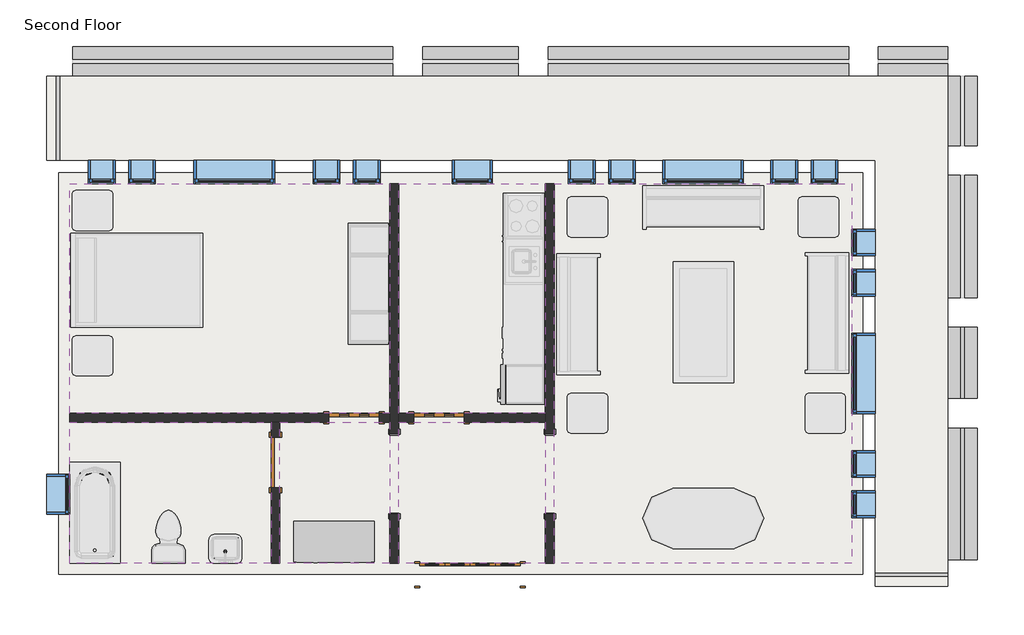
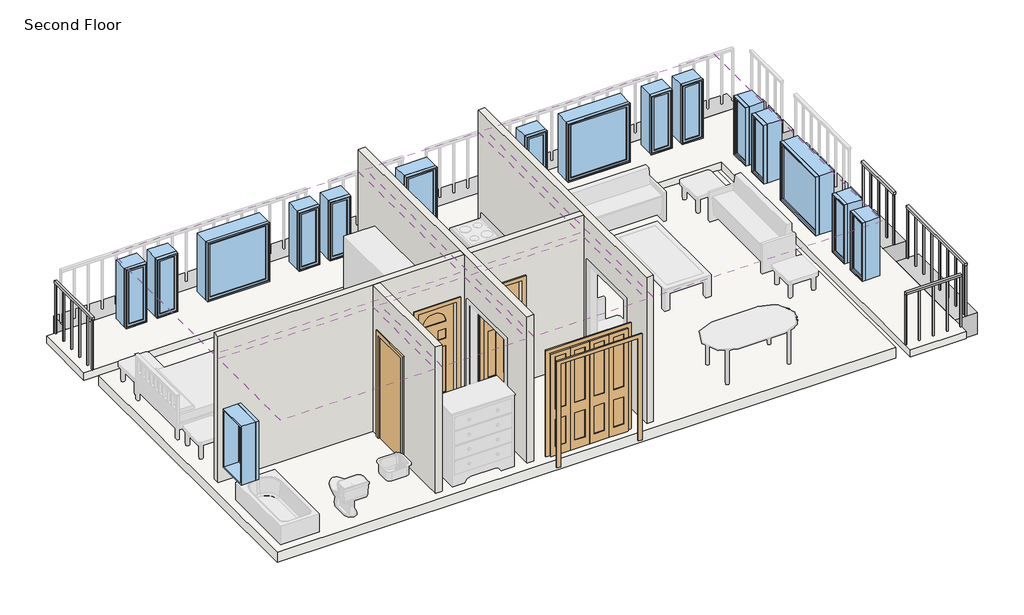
# One storey, part 1 of 2: 17 windows, 6 coverings, 4 doors, 4 railings, 4 walls, 2 beams, 2 slabs.
"""IFC4 building model written with IfcOpenShell, lengths in millimetres."""

from ifc_helpers import new_model, si_unit, frame, origin, place, context, project, spatial, polyline, outline, extrude, faceted_brep, transform, mapped, element, save
from components import m_bifold_4_panel_1525_x_2134mm_1ddae71f, m_single_decorative_2_0762_x_2134mm_0d0af7cb, m_single_decorative_2_0762_x_2134mm_2fe67c8e, m_single_flush_0762_x_2134mm_0d89e411, m_fixed_0406_x_1220mm_57fee329, m_fixed_0406_x_1220mm_85c28f40, m_fixed_0610_x_1220mm_2c28ef1d, m_fixed_1220_x_1220mm_e08ff7af

model = new_model("IFC4")

# Units and contexts
model_context = context("Model", 3, world=origin())
ifc_project = project(units=[si_unit("LENGTHUNIT", "METRE", prefix="MILLI")], contexts=[model_context])

# Site, building, storey
site = spatial("IfcSite", under=ifc_project)
building = spatial("IfcBuilding", under=site)
storey = spatial("IfcBuildingStorey", under=building, Name="Second Floor", Elevation=3048.0)

# Beams
placement = place(None, origin())
element("IfcBeam", 1, ObjectType="M_Concrete-Rectangular Beam : 450 x 450", at=placement, inside=storey, context=model_context, shape_type="SweptSolid", body=[
    extrude(outline(polyline([(-1643.3416203, 4481.1188386), (-1643.3416203, 4031.1188386), (-2693.3416203, 4031.1188386), (-2693.3416203, 4481.1188386), (-1643.3416203, 4481.1188386)])), frame((0.0, 0.0, 2598.0), z_axis=(0.0, 0.0, 1.0), x_axis=(1.0, 0.0, 0.0)), (0.0, 0.0, 1.0), 450.0),
    extrude(outline(polyline([(-14885.3416203, 4031.1188386), (-14885.3416203, 4481.1188386), (-10043.3416203, 4481.1188386), (-10043.3416203, 4031.1188386), (-14885.3416203, 4031.1188386)])), frame((0.0, 0.0, 2598.0), z_axis=(0.0, 0.0, 1.0), x_axis=(1.0, 0.0, 0.0)), (0.0, 0.0, 1.0), 450.0),
    extrude(outline(polyline([(-3143.3416203, 4481.1188386), (-3143.3416203, 4031.1188386), (-7693.3416203, 4031.1188386), (-7693.3416203, 4481.1188386), (-3143.3416203, 4481.1188386)])), frame((0.0, 0.0, 2598.0), z_axis=(0.0, 0.0, 1.0), x_axis=(1.0, 0.0, 0.0)), (0.0, 0.0, 1.0), 450.0),
    extrude(outline(polyline([(-8143.3416203, 4481.1188386), (-8143.3416203, 4031.1188386), (-9593.3416203, 4031.1188386), (-9593.3416203, 4481.1188386), (-8143.3416203, 4481.1188386)])), frame((0.0, 0.0, 2598.0), z_axis=(0.0, 0.0, 1.0), x_axis=(1.0, 0.0, 0.0)), (0.0, 0.0, 1.0), 450.0),
])
element("IfcBeam", 2, ObjectType="M_Concrete-Rectangular Beam : 450 x 450", at=placement, inside=storey, context=model_context, shape_type="SweptSolid", body=[
    extrude(outline(polyline([(-1643.3416203, 4031.1188386), (-1193.3416203, 4031.1188386), (-1193.3416203, 2981.1188386), (-1643.3416203, 2981.1188386), (-1643.3416203, 4031.1188386)])), frame((0.0, 0.0, 2598.0), z_axis=(0.0, 0.0, 1.0), x_axis=(1.0, 0.0, 0.0)), (0.0, 0.0, 1.0), 450.0),
    extrude(outline(polyline([(-1193.3416203, -3289.8811614), (-1643.3416203, -3289.8811614), (-1643.3416203, -1295.3811614), (-1193.3416203, -1295.3811614), (-1193.3416203, -3289.8811614)])), frame((0.0, 0.0, 2598.0), z_axis=(0.0, 0.0, 1.0), x_axis=(1.0, 0.0, 0.0)), (0.0, 0.0, 1.0), 450.0),
    extrude(outline(polyline([(-1643.3416203, 2531.1188386), (-1193.3416203, 2531.1188386), (-1193.3416203, 681.1188386), (-1643.3416203, 681.1188386), (-1643.3416203, 2531.1188386)])), frame((0.0, 0.0, 2598.0), z_axis=(0.0, 0.0, 1.0), x_axis=(1.0, 0.0, 0.0)), (0.0, 0.0, 1.0), 450.0),
    extrude(outline(polyline([(-1643.3416203, 231.1188386), (-1193.3416203, 231.1188386), (-1193.3416203, -845.3811614), (-1643.3416203, -845.3811614), (-1643.3416203, 231.1188386)])), frame((0.0, 0.0, 2598.0), z_axis=(0.0, 0.0, 1.0), x_axis=(1.0, 0.0, 0.0)), (0.0, 0.0, 1.0), 450.0),
])

# Coverings
element("IfcCovering", 3, ObjectType="Plain", at=placement, inside=storey, context=model_context, shape_type="SweptSolid", body=[
    extrude(outline(polyline([(-14935.3416203, 2406.1188386), (-10086.8416203, 2406.1188386), (-10086.8416203, -1070.3811614), (-14935.3416203, -1070.3811614), (-14935.3416203, 2406.1188386)])), frame((0.0, 0.0, 5638.0), z_axis=(0.0, 0.0, 1.0), x_axis=(1.0, 0.0, 0.0)), (0.0, 0.0, 1.0), 57.0),
])
element("IfcCovering", 4, ObjectType="Plain", at=placement, inside=storey, context=model_context, shape_type="SweptSolid", body=[
    extrude(outline(polyline([(-9951.3416203, -1070.3811614), (-9951.3416203, 2406.1188386), (-7733.0916203, 2406.1188386), (-7733.0916203, -1070.3811614), (-9951.3416203, -1070.3811614)])), frame((0.0, 0.0, 5638.0), z_axis=(0.0, 0.0, 1.0), x_axis=(1.0, 0.0, 0.0)), (0.0, 0.0, 1.0), 57.0),
])
element("IfcCovering", 5, ObjectType="Plain", at=placement, inside=storey, context=model_context, shape_type="SweptSolid", body=[
    extrude(outline(polyline([(-7597.5916203, -3339.8811614), (-7597.5916203, 2406.1188386), (-3093.3416203, 2406.1188386), (-3093.3416203, -3339.8811614), (-7597.5916203, -3339.8811614)])), frame((0.0, 0.0, 5638.0), z_axis=(0.0, 0.0, 1.0), x_axis=(1.0, 0.0, 0.0)), (0.0, 0.0, 1.0), 57.0),
])
element("IfcCovering", 6, ObjectType="Plain", at=placement, inside=storey, context=model_context, shape_type="SweptSolid", body=[
    extrude(outline(polyline([(-7733.0916203, -3339.8811614), (-9951.3416203, -3339.8811614), (-9951.3416203, -1205.8811614), (-7733.0916203, -1205.8811614), (-7733.0916203, -3339.8811614)])), frame((0.0, 0.0, 5638.0), z_axis=(0.0, 0.0, 1.0), x_axis=(1.0, 0.0, 0.0)), (0.0, 0.0, 1.0), 57.0),
])
element("IfcCovering", 7, ObjectType="Plain", at=placement, inside=storey, context=model_context, shape_type="SweptSolid", body=[
    extrude(outline(polyline([(-11887.3416203, -1205.8811614), (-11887.3416203, -3339.8811614), (-14935.3416203, -3339.8811614), (-14935.3416203, -1205.8811614), (-11887.3416203, -1205.8811614)])), frame((0.0, 0.0, 5638.0), z_axis=(0.0, 0.0, 1.0), x_axis=(1.0, 0.0, 0.0)), (0.0, 0.0, 1.0), 57.0),
])
element("IfcCovering", 8, ObjectType="Plain", at=placement, inside=storey, context=model_context, shape_type="SweptSolid", body=[
    extrude(outline(polyline([(-10086.8416203, -3339.8811614), (-11751.8416203, -3339.8811614), (-11751.8416203, -1205.8811614), (-10086.8416203, -1205.8811614), (-10086.8416203, -3339.8811614)])), frame((0.0, 0.0, 5638.0), z_axis=(0.0, 0.0, 1.0), x_axis=(1.0, 0.0, 0.0)), (0.0, 0.0, 1.0), 57.0),
])

# Doors
m_bifold_4_panel_1525_x_2134mm_shape = m_bifold_4_panel_1525_x_2134mm_1ddae71f(model_context)
element("IfcDoor", 9, ObjectType="M_Bifold-4 Panel : 1525 x 2134mm", at=placement, inside=storey, context=model_context, shape_type="MappedRepresentation", body=[
    mapped(m_bifold_4_panel_1525_x_2134mm_shape, transform((-8876.0916203, -3514.8811614, 3048.0), x_axis=(1.0, 0.0, 0.0), y_axis=(0.0, 1.0, 0.0), z_axis=(0.0, 0.0, 1.0))),
])
m_single_decorative_2_0762_x_2134mm_shape = m_single_decorative_2_0762_x_2134mm_0d0af7cb(model_context)
element("IfcDoor", 10, ObjectType="M_Single-Decorative 2 : 0762 x 2134mm", at=placement, inside=storey, context=model_context, shape_type="MappedRepresentation", body=[
    mapped(m_single_decorative_2_0762_x_2134mm_shape, transform((-9342.3416203, -1138.1311614, 3048.0), x_axis=(-1.0, 0.0, 0.0), y_axis=(0.0, -1.0, 0.0), z_axis=(0.0, 0.0, 1.0))),
])
m_single_decorative_2_0762_x_2134mm_2_shape = m_single_decorative_2_0762_x_2134mm_2fe67c8e(model_context)
element("IfcDoor", 11, ObjectType="M_Single-Decorative 2 : 0762 x 2134mm", at=placement, inside=storey, context=model_context, shape_type="MappedRepresentation", body=[
    mapped(m_single_decorative_2_0762_x_2134mm_2_shape, transform((-10629.0916203, -1138.1311614, 3048.0), x_axis=(1.0, 0.0, 0.0), y_axis=(0.0, 1.0, 0.0), z_axis=(0.0, 0.0, 1.0))),
])
m_single_flush_0762_x_2134mm_shape = m_single_flush_0762_x_2134mm_0d89e411(model_context)
element("IfcDoor", 12, ObjectType="M_Single-Flush : 0762 x 2134mm", at=placement, inside=storey, context=model_context, shape_type="MappedRepresentation", body=[
    mapped(m_single_flush_0762_x_2134mm_shape, transform((-11819.5916203, -1815.8811614, 3048.0), x_axis=(0.0, 1.0, 0.0), y_axis=(-1.0, 0.0, 0.0), z_axis=(0.0, 0.0, 1.0))),
])

# Railings
element("IfcRailing", 13, ObjectType="1100mm", at=placement, inside=storey, context=model_context, shape_type="SweptSolid", body=[
    extrude(outline(polyline([(-1443.3416203, 231.1188386), (-1393.3416203, 231.1188386), (-1393.3416203, -845.3811614), (-1443.3416203, -845.3811614), (-1443.3416203, 231.1188386)])), frame((0.0, 0.0, 4098.0), z_axis=(0.0, 0.0, 1.0), x_axis=(1.0, 0.0, 0.0)), (0.0, 0.0, 1.0), 50.0),
    extrude(outline(polyline([(-1430.8416203, -581.3811614), (-1405.8416203, -581.3811614), (-1405.8416203, -606.3811614), (-1430.8416203, -606.3811614), (-1430.8416203, -581.3811614)])), frame((0.0, 0.0, 3048.0), z_axis=(0.0, 0.0, 1.0), x_axis=(1.0, 0.0, 0.0)), (0.0, 0.0, 1.0), 1050.0),
    extrude(outline(polyline([(-1430.8416203, -306.3811614), (-1405.8416203, -306.3811614), (-1405.8416203, -331.3811614), (-1430.8416203, -331.3811614), (-1430.8416203, -306.3811614)])), frame((0.0, 0.0, 3048.0), z_axis=(0.0, 0.0, 1.0), x_axis=(1.0, 0.0, 0.0)), (0.0, 0.0, 1.0), 1050.0),
    extrude(outline(polyline([(-1430.8416203, -31.3811614), (-1405.8416203, -31.3811614), (-1405.8416203, -56.3811614), (-1430.8416203, -56.3811614), (-1430.8416203, -31.3811614)])), frame((0.0, 0.0, 3048.0), z_axis=(0.0, 0.0, 1.0), x_axis=(1.0, 0.0, 0.0)), (0.0, 0.0, 1.0), 1050.0),
    extrude(outline(polyline([(-1430.8416203, -820.3811614), (-1405.8416203, -820.3811614), (-1405.8416203, -845.3811614), (-1430.8416203, -845.3811614), (-1430.8416203, -820.3811614)])), frame((0.0, 0.0, 3048.0), z_axis=(0.0, 0.0, 1.0), x_axis=(1.0, 0.0, 0.0)), (0.0, 0.0, 1.0), 1050.0),
    extrude(outline(polyline([(-1430.8416203, 231.1188386), (-1405.8416203, 231.1188386), (-1405.8416203, 206.1188386), (-1430.8416203, 206.1188386), (-1430.8416203, 231.1188386)])), frame((0.0, 0.0, 3048.0), z_axis=(0.0, 0.0, 1.0), x_axis=(1.0, 0.0, 0.0)), (0.0, 0.0, 1.0), 1050.0),
])
element("IfcRailing", 14, ObjectType="1100mm", at=placement, inside=storey, context=model_context, shape_type="SweptSolid", body=[
    extrude(outline(polyline([(-1443.3416203, -1295.3811614), (-1393.3416203, -1295.3811614), (-1393.3416203, -3289.8811614), (-1443.3416203, -3289.8811614), (-1443.3416203, -1295.3811614)])), frame((0.0, 0.0, 4098.0), z_axis=(0.0, 0.0, 1.0), x_axis=(1.0, 0.0, 0.0)), (0.0, 0.0, 1.0), 50.0),
    extrude(outline(polyline([(-1430.8416203, -3207.8811614), (-1405.8416203, -3207.8811614), (-1405.8416203, -3232.8811614), (-1430.8416203, -3232.8811614), (-1430.8416203, -3207.8811614)])), frame((0.0, 0.0, 3048.0), z_axis=(0.0, 0.0, 1.0), x_axis=(1.0, 0.0, 0.0)), (0.0, 0.0, 1.0), 1050.0),
    extrude(outline(polyline([(-1430.8416203, -2932.8811614), (-1405.8416203, -2932.8811614), (-1405.8416203, -2957.8811614), (-1430.8416203, -2957.8811614), (-1430.8416203, -2932.8811614)])), frame((0.0, 0.0, 3048.0), z_axis=(0.0, 0.0, 1.0), x_axis=(1.0, 0.0, 0.0)), (0.0, 0.0, 1.0), 1050.0),
    extrude(outline(polyline([(-1430.8416203, -2657.8811614), (-1405.8416203, -2657.8811614), (-1405.8416203, -2682.8811614), (-1430.8416203, -2682.8811614), (-1430.8416203, -2657.8811614)])), frame((0.0, 0.0, 3048.0), z_axis=(0.0, 0.0, 1.0), x_axis=(1.0, 0.0, 0.0)), (0.0, 0.0, 1.0), 1050.0),
    extrude(outline(polyline([(-1430.8416203, -2382.8811614), (-1405.8416203, -2382.8811614), (-1405.8416203, -2407.8811614), (-1430.8416203, -2407.8811614), (-1430.8416203, -2382.8811614)])), frame((0.0, 0.0, 3048.0), z_axis=(0.0, 0.0, 1.0), x_axis=(1.0, 0.0, 0.0)), (0.0, 0.0, 1.0), 1050.0),
    extrude(outline(polyline([(-1430.8416203, -2107.8811614), (-1405.8416203, -2107.8811614), (-1405.8416203, -2132.8811614), (-1430.8416203, -2132.8811614), (-1430.8416203, -2107.8811614)])), frame((0.0, 0.0, 3048.0), z_axis=(0.0, 0.0, 1.0), x_axis=(1.0, 0.0, 0.0)), (0.0, 0.0, 1.0), 1050.0),
    extrude(outline(polyline([(-1430.8416203, -1832.8811614), (-1405.8416203, -1832.8811614), (-1405.8416203, -1857.8811614), (-1430.8416203, -1857.8811614), (-1430.8416203, -1832.8811614)])), frame((0.0, 0.0, 3048.0), z_axis=(0.0, 0.0, 1.0), x_axis=(1.0, 0.0, 0.0)), (0.0, 0.0, 1.0), 1050.0),
    extrude(outline(polyline([(-1430.8416203, -1557.8811614), (-1405.8416203, -1557.8811614), (-1405.8416203, -1582.8811614), (-1430.8416203, -1582.8811614), (-1430.8416203, -1557.8811614)])), frame((0.0, 0.0, 3048.0), z_axis=(0.0, 0.0, 1.0), x_axis=(1.0, 0.0, 0.0)), (0.0, 0.0, 1.0), 1050.0),
    extrude(outline(polyline([(-1430.8416203, -3264.8811614), (-1405.8416203, -3264.8811614), (-1405.8416203, -3289.8811614), (-1430.8416203, -3289.8811614), (-1430.8416203, -3264.8811614)])), frame((0.0, 0.0, 3048.0), z_axis=(0.0, 0.0, 1.0), x_axis=(1.0, 0.0, 0.0)), (0.0, 0.0, 1.0), 1050.0),
    extrude(outline(polyline([(-1430.8416203, -1295.3811614), (-1405.8416203, -1295.3811614), (-1405.8416203, -1320.3811614), (-1430.8416203, -1320.3811614), (-1430.8416203, -1295.3811614)])), frame((0.0, 0.0, 3048.0), z_axis=(0.0, 0.0, 1.0), x_axis=(1.0, 0.0, 0.0)), (0.0, 0.0, 1.0), 1050.0),
])
element("IfcRailing", 15, ObjectType="1100mm", at=placement, inside=storey, context=model_context, shape_type="SweptSolid", body=[
    extrude(outline(polyline([(-1643.3416203, -3489.8811614), (-1643.3416203, -3539.8811614), (-2743.3416203, -3539.8811614), (-2743.3416203, -3489.8811614), (-1643.3416203, -3489.8811614)])), frame((0.0, 0.0, 4098.0), z_axis=(0.0, 0.0, 1.0), x_axis=(1.0, 0.0, 0.0)), (0.0, 0.0, 1.0), 50.0),
    extrude(outline(polyline([(-2455.8416203, -3502.3811614), (-2455.8416203, -3527.3811614), (-2480.8416203, -3527.3811614), (-2480.8416203, -3502.3811614), (-2455.8416203, -3502.3811614)])), frame((0.0, 0.0, 3048.0), z_axis=(0.0, 0.0, 1.0), x_axis=(1.0, 0.0, 0.0)), (0.0, 0.0, 1.0), 1050.0),
    extrude(outline(polyline([(-2180.8416203, -3502.3811614), (-2180.8416203, -3527.3811614), (-2205.8416203, -3527.3811614), (-2205.8416203, -3502.3811614), (-2180.8416203, -3502.3811614)])), frame((0.0, 0.0, 3048.0), z_axis=(0.0, 0.0, 1.0), x_axis=(1.0, 0.0, 0.0)), (0.0, 0.0, 1.0), 1050.0),
    extrude(outline(polyline([(-1905.8416203, -3502.3811614), (-1905.8416203, -3527.3811614), (-1930.8416203, -3527.3811614), (-1930.8416203, -3502.3811614), (-1905.8416203, -3502.3811614)])), frame((0.0, 0.0, 3048.0), z_axis=(0.0, 0.0, 1.0), x_axis=(1.0, 0.0, 0.0)), (0.0, 0.0, 1.0), 1050.0),
    extrude(outline(polyline([(-2718.3416203, -3502.3811614), (-2718.3416203, -3527.3811614), (-2743.3416203, -3527.3811614), (-2743.3416203, -3502.3811614), (-2718.3416203, -3502.3811614)])), frame((0.0, 0.0, 3048.0), z_axis=(0.0, 0.0, 1.0), x_axis=(1.0, 0.0, 0.0)), (0.0, 0.0, 1.0), 1050.0),
    extrude(outline(polyline([(-1643.3416203, -3502.3811614), (-1643.3416203, -3527.3811614), (-1668.3416203, -3527.3811614), (-1668.3416203, -3502.3811614), (-1643.3416203, -3502.3811614)])), frame((0.0, 0.0, 3048.0), z_axis=(0.0, 0.0, 1.0), x_axis=(1.0, 0.0, 0.0)), (0.0, 0.0, 1.0), 1050.0),
])
element("IfcRailing", 16, ObjectType="1100mm", at=placement, inside=storey, context=model_context, shape_type="SweptSolid", body=[
    extrude(outline(polyline([(-15135.3416203, 4031.1188386), (-15085.3416203, 4031.1188386), (-15085.3416203, 2756.1188386), (-15135.3416203, 2756.1188386), (-15135.3416203, 4031.1188386)])), frame((0.0, 0.0, 4098.0), z_axis=(0.0, 0.0, 1.0), x_axis=(1.0, 0.0, 0.0)), (0.0, 0.0, 1.0), 50.0),
    extrude(outline(polyline([(-15122.8416203, 2943.6188386), (-15097.8416203, 2943.6188386), (-15097.8416203, 2918.6188386), (-15122.8416203, 2918.6188386), (-15122.8416203, 2943.6188386)])), frame((0.0, 0.0, 3048.0), z_axis=(0.0, 0.0, 1.0), x_axis=(1.0, 0.0, 0.0)), (0.0, 0.0, 1.0), 1050.0),
    extrude(outline(polyline([(-15122.8416203, 3218.6188386), (-15097.8416203, 3218.6188386), (-15097.8416203, 3193.6188386), (-15122.8416203, 3193.6188386), (-15122.8416203, 3218.6188386)])), frame((0.0, 0.0, 3048.0), z_axis=(0.0, 0.0, 1.0), x_axis=(1.0, 0.0, 0.0)), (0.0, 0.0, 1.0), 1050.0),
    extrude(outline(polyline([(-15122.8416203, 3493.6188386), (-15097.8416203, 3493.6188386), (-15097.8416203, 3468.6188386), (-15122.8416203, 3468.6188386), (-15122.8416203, 3493.6188386)])), frame((0.0, 0.0, 3048.0), z_axis=(0.0, 0.0, 1.0), x_axis=(1.0, 0.0, 0.0)), (0.0, 0.0, 1.0), 1050.0),
    extrude(outline(polyline([(-15122.8416203, 3768.6188386), (-15097.8416203, 3768.6188386), (-15097.8416203, 3743.6188386), (-15122.8416203, 3743.6188386), (-15122.8416203, 3768.6188386)])), frame((0.0, 0.0, 3048.0), z_axis=(0.0, 0.0, 1.0), x_axis=(1.0, 0.0, 0.0)), (0.0, 0.0, 1.0), 1050.0),
    extrude(outline(polyline([(-15122.8416203, 2781.1188386), (-15097.8416203, 2781.1188386), (-15097.8416203, 2756.1188386), (-15122.8416203, 2756.1188386), (-15122.8416203, 2781.1188386)])), frame((0.0, 0.0, 3048.0), z_axis=(0.0, 0.0, 1.0), x_axis=(1.0, 0.0, 0.0)), (0.0, 0.0, 1.0), 1050.0),
    extrude(outline(polyline([(-15122.8416203, 4031.1188386), (-15097.8416203, 4031.1188386), (-15097.8416203, 4006.1188386), (-15122.8416203, 4006.1188386), (-15122.8416203, 4031.1188386)])), frame((0.0, 0.0, 3048.0), z_axis=(0.0, 0.0, 1.0), x_axis=(1.0, 0.0, 0.0)), (0.0, 0.0, 1.0), 1050.0),
])

# Slabs
element("IfcSlab", 17, ObjectType="160mm Concrete With 50mm Metal Deck", at=placement, inside=storey, context=model_context, shape_type="SweptSolid", body=[
    extrude(outline(polyline([(-2928.3416203, 2571.1188386), (-2928.3416203, -3504.8811614), (-15100.3416203, -3504.8811614), (-15100.3416203, 2571.1188386), (-2928.3416203, 2571.1188386)])), frame((0.0, 0.0, 2838.0), z_axis=(0.0, 0.0, 1.0), x_axis=(1.0, 0.0, 0.0)), (0.0, 0.0, 1.0), 210.0),
])
element("IfcSlab", 18, ObjectType="Generic 150mm", at=placement, inside=storey, context=model_context, shape_type="SweptSolid", body=[
    extrude(outline(polyline([(-15285.3416203, 4031.1188386), (-1643.3416203, 4031.1188386), (-1643.3416203, -3689.8811614), (-2743.3416203, -3689.8811614), (-2743.3416203, 2756.1188386), (-15285.3416203, 2756.1188386), (-15285.3416203, 4031.1188386)])), frame((0.0, 0.0, 2898.0), z_axis=(0.0, 0.0, 1.0), x_axis=(1.0, 0.0, 0.0)), (0.0, 0.0, 1.0), 150.0),
])

# Walls
element("IfcWall", 19, ObjectType="Interior - 135mm Partition (2-hr)", at=placement, inside=storey, context=model_context, shape_type="Brep", body=[
    faceted_brep([(-7733.0916203, 2406.1188386, 3048.0), (-7733.0916203, -1070.3811614, 3048.0), (-7733.0916203, -1205.8811614, 3048.0), (-7733.0916203, -1380.8811614, 3048.0), (-7733.0916203, -1380.8811614, 5182.0), (-7733.0916203, -2600.8811614, 5182.0), (-7733.0916203, -2600.8811614, 3048.0), (-7733.0916203, -3339.8811614, 3048.0), (-7733.0916203, -3339.8811614, 6096.0), (-7733.0916203, -1205.8811614, 6096.0), (-7733.0916203, -1070.3811614, 6096.0), (-7733.0916203, 2406.1188386, 6096.0), (-7597.5916203, -1380.8811614, 5182.0), (-7597.5916203, -1380.8811614, 3048.0), (-7597.5916203, 2406.1188386, 3048.0), (-7597.5916203, 2406.1188386, 6096.0), (-7597.5916203, -3339.8811614, 6096.0), (-7597.5916203, -3339.8811614, 3048.0), (-7597.5916203, -2600.8811614, 3048.0), (-7597.5916203, -2600.8811614, 5182.0)], [[[0, 1, 2, 3, 4, 5, 6, 7, 8, 9, 10, 11]], [[12, 13, 14, 15, 16, 17, 18, 19]], [[18, 17, 7, 6]], [[14, 13, 3, 2, 1, 0]], [[11, 10, 9, 8, 16, 15]], [[6, 5, 19, 18]], [[4, 3, 13, 12]], [[5, 4, 12, 19]], [[0, 11, 15, 14]], [[8, 7, 17, 16]]]),
])
element("IfcWall", 20, ObjectType="Interior - 135mm Partition (2-hr)", at=placement, inside=storey, context=model_context, shape_type="Brep", body=[
    faceted_brep([(-10086.8416203, -2600.8811614, 5182.0), (-10086.8416203, -2600.8811614, 3048.0), (-10086.8416203, -3339.8811614, 3048.0), (-10086.8416203, -3339.8811614, 6096.0), (-10086.8416203, -1205.8811614, 6096.0), (-10086.8416203, -1070.3811614, 6096.0), (-10086.8416203, 2406.1188386, 6096.0), (-10086.8416203, 2406.1188386, 3048.0), (-10086.8416203, -1070.3811614, 3048.0), (-10086.8416203, -1205.8811614, 3048.0), (-10086.8416203, -1380.8811614, 3048.0), (-10086.8416203, -1380.8811614, 5182.0), (-9951.3416203, -3339.8811614, 3048.0), (-9951.3416203, -2600.8811614, 3048.0), (-9951.3416203, -2600.8811614, 5182.0), (-9951.3416203, -1380.8811614, 5182.0), (-9951.3416203, -1380.8811614, 3048.0), (-9951.3416203, -1205.8811614, 3048.0), (-9951.3416203, -1070.3811614, 3048.0), (-9951.3416203, 2406.1188386, 3048.0), (-9951.3416203, 2406.1188386, 6096.0), (-9951.3416203, -1070.3811614, 6096.0), (-9951.3416203, -1205.8811614, 6096.0), (-9951.3416203, -3339.8811614, 6096.0)], [[[0, 1, 2, 3, 4, 5, 6, 7, 8, 9, 10, 11]], [[12, 13, 14, 15, 16, 17, 18, 19, 20, 21, 22, 23]], [[2, 1, 13, 12]], [[10, 9, 8, 7, 19, 18, 17, 16]], [[6, 5, 4, 3, 23, 22, 21, 20]], [[16, 15, 11, 10]], [[14, 13, 1, 0]], [[15, 14, 0, 11]], [[7, 6, 20, 19]], [[3, 2, 12, 23]]]),
])
element("IfcWall", 21, ObjectType="Interior - 135mm Partition (2-hr)", at=placement, inside=storey, context=model_context, shape_type="Brep", body=[
    faceted_brep([(-7733.0916203, -1205.8811614, 3048.0), (-7733.0916203, -1205.8811614, 6096.0), (-9951.3416203, -1205.8811614, 6096.0), (-9951.3416203, -1205.8811614, 3048.0), (-9723.3416203, -1205.8811614, 3048.0), (-9723.3416203, -1205.8811614, 5182.0), (-8961.3416203, -1205.8811614, 5182.0), (-8961.3416203, -1205.8811614, 3048.0), (-7733.0916203, -1070.3811614, 6096.0), (-7733.0916203, -1070.3811614, 3048.0), (-8961.3416203, -1070.3811614, 3048.0), (-8961.3416203, -1070.3811614, 5182.0), (-9723.3416203, -1070.3811614, 5182.0), (-9723.3416203, -1070.3811614, 3048.0), (-9951.3416203, -1070.3811614, 3048.0), (-9951.3416203, -1070.3811614, 6096.0)], [[[0, 1, 2, 3, 4, 5, 6, 7]], [[8, 9, 10, 11, 12, 13, 14, 15]], [[9, 0, 7, 10]], [[13, 4, 3, 14]], [[1, 8, 15, 2]], [[1, 0, 9, 8]], [[3, 2, 15, 14]], [[5, 4, 13, 12]], [[6, 5, 12, 11]], [[7, 6, 11, 10]]]),
    faceted_brep([(-10248.0916203, -1205.8811614, 5182.0), (-10248.0916203, -1205.8811614, 3048.0), (-10086.8416203, -1205.8811614, 3048.0), (-10086.8416203, -1205.8811614, 6096.0), (-11751.8416203, -1205.8811614, 6096.0), (-11887.3416203, -1205.8811614, 6096.0), (-14935.3416203, -1205.8811614, 6096.0), (-14935.3416203, -1205.8811614, 3048.0), (-11887.3416203, -1205.8811614, 3048.0), (-11751.8416203, -1205.8811614, 3048.0), (-11010.0916203, -1205.8811614, 3048.0), (-11010.0916203, -1205.8811614, 5182.0), (-10248.0916203, -1070.3811614, 3048.0), (-10248.0916203, -1070.3811614, 5182.0), (-11010.0916203, -1070.3811614, 5182.0), (-11010.0916203, -1070.3811614, 3048.0), (-14935.3416203, -1070.3811614, 3048.0), (-14935.3416203, -1070.3811614, 6096.0), (-10086.8416203, -1070.3811614, 6096.0), (-10086.8416203, -1070.3811614, 3048.0)], [[[0, 1, 2, 3, 4, 5, 6, 7, 8, 9, 10, 11]], [[12, 13, 14, 15, 16, 17, 18, 19]], [[1, 12, 19, 2]], [[15, 10, 9, 8, 7, 16]], [[17, 6, 5, 4, 3, 18]], [[3, 2, 19, 18]], [[13, 12, 1, 0]], [[14, 13, 0, 11]], [[15, 14, 11, 10]], [[7, 6, 17, 16]]]),
])
element("IfcWall", 22, ObjectType="Interior - 135mm Partition (2-hr)", at=placement, inside=storey, context=model_context, shape_type="SweptSolid", body=[
    extrude(outline(polyline([(-1205.8811614, 3048.0), (-1434.8811614, 3048.0), (-1434.8811614, 5182.0), (-2196.8811614, 5182.0), (-2196.8811614, 3048.0), (-3339.8811614, 3048.0), (-3339.8811614, 6096.0), (-1205.8811614, 6096.0), (-1205.8811614, 3048.0)])), frame((-11887.3416203, 0.0, 0.0), z_axis=(1.0, 0.0, 0.0), x_axis=(0.0, 1.0, 0.0)), (0.0, 0.0, 1.0), 135.5),
])

# Windows
m_fixed_0406_x_1220mm_shape = m_fixed_0406_x_1220mm_57fee329(model_context)
element("IfcWindow", 23, ObjectType="M_Fixed : 0406 x 1220mm", at=placement, inside=storey, context=model_context, shape_type="MappedRepresentation", body=[
    mapped(m_fixed_0406_x_1220mm_shape, transform((-14450.3416203, 2594.1188386, 3048.0), x_axis=(-1.0, 0.0, 0.0), y_axis=(0.0, -1.0, 0.0), z_axis=(0.0, 0.0, 1.0))),
])
element("IfcWindow", 24, ObjectType="M_Fixed : 0406 x 1220mm", at=placement, inside=storey, context=model_context, shape_type="MappedRepresentation", body=[
    mapped(m_fixed_0406_x_1220mm_shape, transform((-13840.3416203, 2594.1188386, 3048.0), x_axis=(-1.0, 0.0, 0.0), y_axis=(0.0, -1.0, 0.0), z_axis=(0.0, 0.0, 1.0))),
])
element("IfcWindow", 25, ObjectType="M_Fixed : 0406 x 1220mm", at=placement, inside=storey, context=model_context, shape_type="MappedRepresentation", body=[
    mapped(m_fixed_0406_x_1220mm_shape, transform((-7183.3416203, 2594.1188386, 3048.0), x_axis=(-1.0, 0.0, 0.0), y_axis=(0.0, -1.0, 0.0), z_axis=(0.0, 0.0, 1.0))),
])
element("IfcWindow", 26, ObjectType="M_Fixed : 0406 x 1220mm", at=placement, inside=storey, context=model_context, shape_type="MappedRepresentation", body=[
    mapped(m_fixed_0406_x_1220mm_shape, transform((-6573.3416203, 2594.1188386, 3048.0), x_axis=(-1.0, 0.0, 0.0), y_axis=(0.0, -1.0, 0.0), z_axis=(0.0, 0.0, 1.0))),
])
element("IfcWindow", 27, ObjectType="M_Fixed : 0406 x 1220mm", at=placement, inside=storey, context=model_context, shape_type="MappedRepresentation", body=[
    mapped(m_fixed_0406_x_1220mm_shape, transform((-2905.3416203, 1514.1188386, 3048.0), x_axis=(0.0, 1.0, 0.0), y_axis=(-1.0, 0.0, 0.0), z_axis=(0.0, 0.0, 1.0))),
])
element("IfcWindow", 28, ObjectType="M_Fixed : 0406 x 1220mm", at=placement, inside=storey, context=model_context, shape_type="MappedRepresentation", body=[
    mapped(m_fixed_0406_x_1220mm_shape, transform((-2905.3416203, 904.1188386, 3048.0), x_axis=(0.0, 1.0, 0.0), y_axis=(-1.0, 0.0, 0.0), z_axis=(0.0, 0.0, 1.0))),
])
m_fixed_0406_x_1220mm_2_shape = m_fixed_0406_x_1220mm_85c28f40(model_context)
element("IfcWindow", 29, ObjectType="M_Fixed : 0406 x 1220mm", at=placement, inside=storey, context=model_context, shape_type="MappedRepresentation", body=[
    mapped(m_fixed_0406_x_1220mm_2_shape, transform((-10436.3416203, 2594.1188386, 3048.0), x_axis=(1.0, 0.0, 0.0), y_axis=(0.0, 1.0, 0.0), z_axis=(0.0, 0.0, 1.0))),
])
element("IfcWindow", 30, ObjectType="M_Fixed : 0406 x 1220mm", at=placement, inside=storey, context=model_context, shape_type="MappedRepresentation", body=[
    mapped(m_fixed_0406_x_1220mm_2_shape, transform((-11046.3416203, 2594.1188386, 3048.0), x_axis=(1.0, 0.0, 0.0), y_axis=(0.0, 1.0, 0.0), z_axis=(0.0, 0.0, 1.0))),
])
element("IfcWindow", 31, ObjectType="M_Fixed : 0406 x 1220mm", at=placement, inside=storey, context=model_context, shape_type="MappedRepresentation", body=[
    mapped(m_fixed_0406_x_1220mm_2_shape, transform((-3507.5916203, 2594.1188386, 3048.0), x_axis=(1.0, 0.0, 0.0), y_axis=(0.0, 1.0, 0.0), z_axis=(0.0, 0.0, 1.0))),
])
element("IfcWindow", 32, ObjectType="M_Fixed : 0406 x 1220mm", at=placement, inside=storey, context=model_context, shape_type="MappedRepresentation", body=[
    mapped(m_fixed_0406_x_1220mm_2_shape, transform((-4117.5916203, 2594.1188386, 3048.0), x_axis=(1.0, 0.0, 0.0), y_axis=(0.0, 1.0, 0.0), z_axis=(0.0, 0.0, 1.0))),
])
element("IfcWindow", 33, ObjectType="M_Fixed : 0406 x 1220mm", at=placement, inside=storey, context=model_context, shape_type="MappedRepresentation", body=[
    mapped(m_fixed_0406_x_1220mm_2_shape, transform((-2905.3416203, -2447.8811614, 3048.0), x_axis=(0.0, -1.0, 0.0), y_axis=(1.0, 0.0, 0.0), z_axis=(0.0, 0.0, 1.0))),
])
element("IfcWindow", 34, ObjectType="M_Fixed : 0406 x 1220mm", at=placement, inside=storey, context=model_context, shape_type="MappedRepresentation", body=[
    mapped(m_fixed_0406_x_1220mm_2_shape, transform((-2905.3416203, -1837.8811614, 3048.0), x_axis=(0.0, -1.0, 0.0), y_axis=(1.0, 0.0, 0.0), z_axis=(0.0, 0.0, 1.0))),
])
m_fixed_0610_x_1220mm_shape = m_fixed_0610_x_1220mm_2c28ef1d(model_context)
element("IfcWindow", 35, ObjectType="M_Fixed : 0610 x 1220mm", at=placement, inside=storey, context=model_context, shape_type="MappedRepresentation", body=[
    mapped(m_fixed_0610_x_1220mm_shape, transform((-8842.1916203, 2594.1188386, 3048.0), x_axis=(-1.0, 0.0, 0.0), y_axis=(0.0, -1.0, 0.0), z_axis=(0.0, 0.0, 1.0))),
])
element("IfcWindow", 36, ObjectType="M_Fixed : 0610 x 1220mm", at=placement, inside=storey, context=model_context, shape_type="MappedRepresentation", body=[
    mapped(m_fixed_0610_x_1220mm_shape, transform((-15123.3416203, -2294.8811614, 3048.0), x_axis=(0.0, -1.0, 0.0), y_axis=(1.0, 0.0, 0.0), z_axis=(0.0, 0.0, 1.0))),
])
m_fixed_1220_x_1220mm_shape = m_fixed_1220_x_1220mm_e08ff7af(model_context)
element("IfcWindow", 37, ObjectType="M_Fixed : 1220 x 1220mm", at=placement, inside=storey, context=model_context, shape_type="MappedRepresentation", body=[
    mapped(m_fixed_1220_x_1220mm_shape, transform((-12443.3416203, 2594.1188386, 3048.0), x_axis=(-1.0, 0.0, 0.0), y_axis=(0.0, -1.0, 0.0), z_axis=(0.0, 0.0, 1.0))),
])
element("IfcWindow", 38, ObjectType="M_Fixed : 1220 x 1220mm", at=placement, inside=storey, context=model_context, shape_type="MappedRepresentation", body=[
    mapped(m_fixed_1220_x_1220mm_shape, transform((-5345.4666203, 2594.1188386, 3048.0), x_axis=(-1.0, 0.0, 0.0), y_axis=(0.0, -1.0, 0.0), z_axis=(0.0, 0.0, 1.0))),
])
element("IfcWindow", 39, ObjectType="M_Fixed : 1220 x 1220mm", at=placement, inside=storey, context=model_context, shape_type="MappedRepresentation", body=[
    mapped(m_fixed_1220_x_1220mm_shape, transform((-2905.3416203, -466.8811614, 3048.0), x_axis=(0.0, 1.0, 0.0), y_axis=(-1.0, 0.0, 0.0), z_axis=(0.0, 0.0, 1.0))),
])

save(model, "model.ifc")
